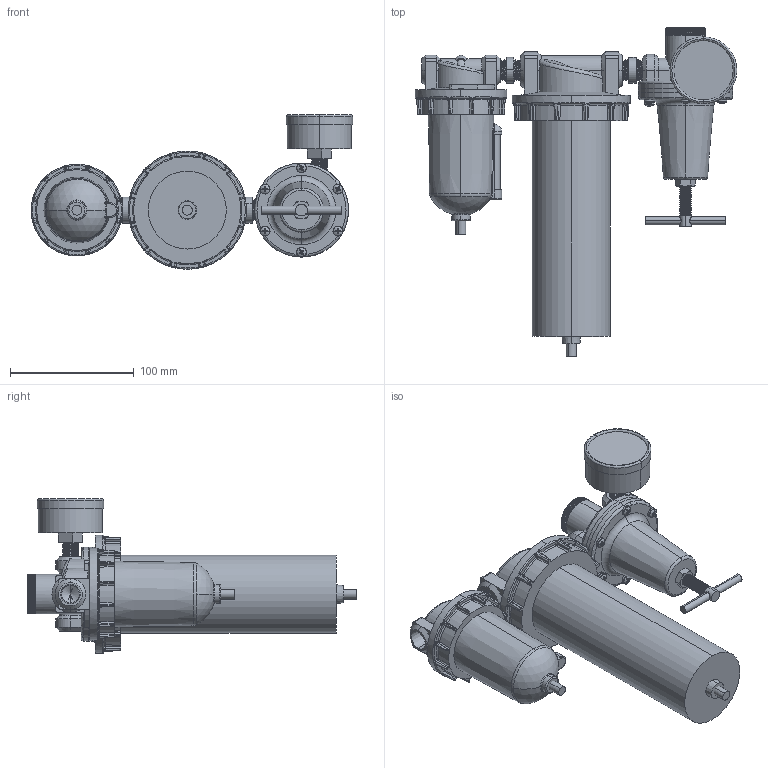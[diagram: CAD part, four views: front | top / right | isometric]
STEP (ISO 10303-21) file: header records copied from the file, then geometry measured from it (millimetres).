
FILE_DESCRIPTION (( 'STEP AP203' ), '1' );
FILE_NAME ('C728#W#-03YB#.STEP', '2016-02-16T03:36:13', ( '' ), ( '' ), 'SwSTEP 2.0', 'SolidWorks 2014', '' );
FILE_SCHEMA (( 'CONFIG_CONTROL_DESIGN' ));
Length unit declared in the file: millimetre
Products named in the file (22): F602W-03#YB#; R119-02-5; R119-02-7; R119-02-2; C728#W#-03YB#; H604D-03YB#; 50-P-AD=1-4PT.SLDPRT; ISO 7045 - M4 x 16; R119-02-6; 50-P-AD=1-4PT-2; R119-02-4; H604D-02-1; L606-W-06-5; R119-02-1; 50-P-AD=1-4PT-1
Assembly tree (29 placements, depth 4):
  C728#W#-03YB#
    (unnamed)  x2
    F602W-03#YB#
      (unnamed)
      L606-W-06-5
      (unnamed)
      (unnamed)
    H604D-03YB#
      L606-W-06-5
      H604D-02-1
      (unnamed)
    (unnamed)
      R119-02-1
      R119-02-2
      (unnamed)
      R119-02-4
      ISO 7045 - M4 x 16  x7
      R119-02-5
      R119-02-6
      R119-02-7
      50-P-AD=1-4PT.SLDPRT
        50-P-AD=1-4PT-1
        50-P-AD=1-4PT-2
Bounding box: 260 x 265.5 x 124.75 mm (x, y, z)
Volume: 1312797.4 mm3; surface area: 182953.2 mm2
Topology: 25 solids, 25 shells, 1571 faces, 3864 edges, 2292 vertices
Faces by surface type: plane 498, cylinder 340, cone 332, bspline 217, torus 107, sphere 77
Entity records: 55976 total; most frequent: CARTESIAN_POINT 25522, ORIENTED_EDGE 6312, DIRECTION 5365, EDGE_CURVE 3156, AXIS2_PLACEMENT_3D 2246, VERTEX_POINT 1896, EDGE_LOOP 1348, ADVANCED_FACE 1313
